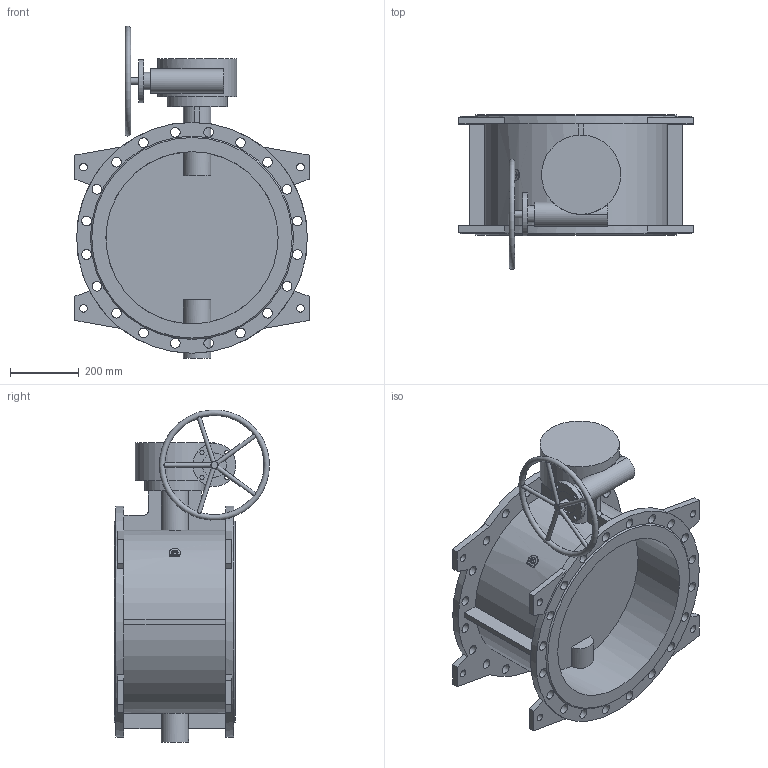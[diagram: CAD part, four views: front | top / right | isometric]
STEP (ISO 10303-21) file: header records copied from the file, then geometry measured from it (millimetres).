
FILE_DESCRIPTION(('STEP AP203'), '1');
FILE_NAME('Çàòâîð 023F.Z DN500 PN10_ìàõ', '', ('UNSPECIFIED'), ('UNSPECIFIED'), 'ASCON STEP Converter 1.6', 'ASCON Math Kernel', '');
FILE_SCHEMA(('CONFIG_CONTROL_DESIGN'));
Length unit declared in the file: millimetre
Bounding box: 680 x 449.98 x 963.82 mm (x, y, z)
Volume: 33130237.4 mm3; surface area: 2664898.3 mm2
Topology: 1 solids, 1 shells, 189 faces, 504 edges, 335 vertices
Faces by surface type: cylinder 96, plane 90, cone 2, torus 1
Full cylindrical faces by diameter (mm): 12 x9, 14 x4, 18 x4, 20 x2, 22 x8, 28 x40, 50 x1, 70 x2, 80 x1, 125 x1, 175 x1, 230 x1, 500 x2, 670 x2
Entity records: 10495 total; most frequent: CARTESIAN_POINT 4269, DIRECTION 943, ORIENTED_EDGE 838, EDGE_CURVE 419, EDGE_LOOP 400, AXIS2_PLACEMENT_3D 381, VERTEX_POINT 333, FACE_BOUND 252
